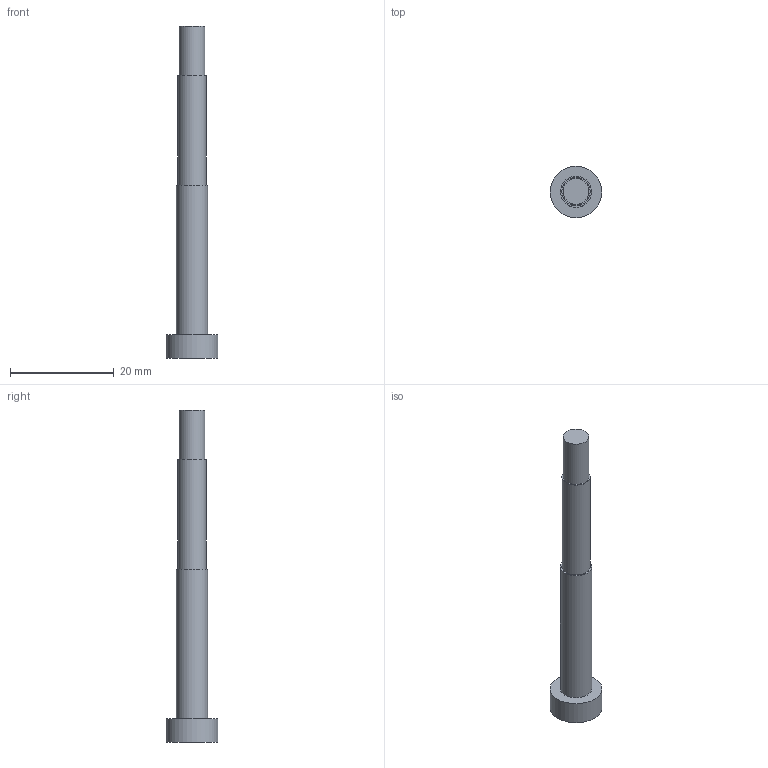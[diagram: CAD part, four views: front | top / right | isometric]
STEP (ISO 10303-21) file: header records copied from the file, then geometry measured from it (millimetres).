
FILE_DESCRIPTION(('Open CASCADE Model'),'2;1');
FILE_NAME('Open CASCADE Shape Model','2026-11-14T12:29:52',('Author'),( 'Open CASCADE'),'Open CASCADE STEP processor 8.0','Open CASCADE 8.0' ,'Unknown');
FILE_SCHEMA(('AUTOMOTIVE_DESIGN { 1 0 10303 214 1 1 1 1 }'));
Length unit declared in the file: millimetre
Products named in the file (1): Open CASCADE STEP translator 8.0 4
Bounding box: 10 x 10 x 64 mm (x, y, z)
Volume: 1829.4 mm3; surface area: 1379.4 mm2
Topology: 1 solids, 1 shells, 16 faces, 30 edges, 20 vertices
Faces by surface type: plane 12, cylinder 4
Full cylindrical faces by diameter (mm): 5 x1, 5.45 x1, 6 x1, 10 x1
Entity records: 790 total; most frequent: CARTESIAN_POINT 139, DIRECTION 120, LINE 62, VECTOR 62, ORIENTED_EDGE 60, PCURVE 60, DEFINITIONAL_REPRESENTATION 60, EDGE_CURVE 30
